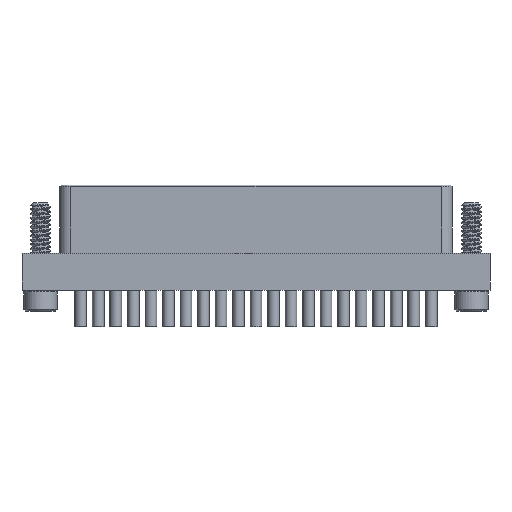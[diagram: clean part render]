
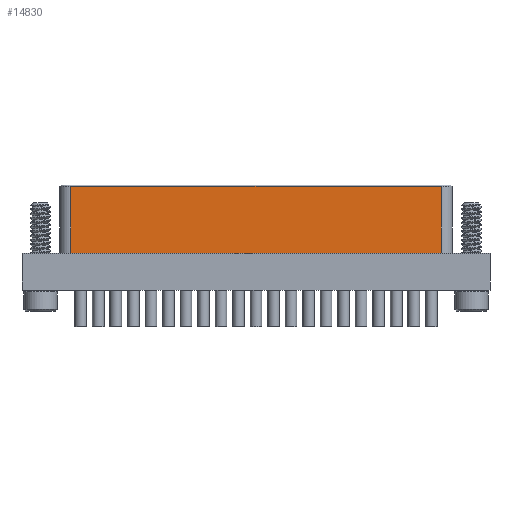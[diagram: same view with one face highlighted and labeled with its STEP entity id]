
A CAD part, front view. The second image highlights one B-rep face of the part: STEP entity #14830.
In plain terms, the highlighted planar face has unit normal (0, -1, 0).
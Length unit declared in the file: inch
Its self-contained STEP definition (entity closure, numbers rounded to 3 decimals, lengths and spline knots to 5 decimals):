
#430 = AXIS2_PLACEMENT_3D ( 'NONE', #25194, #18597, #3264 ) ;
#1190 = CARTESIAN_POINT ( 'NONE',  ( 0.5285, -0.0525, -0.195 ) ) ;
#1230 = DIRECTION ( 'NONE',  ( 0., 0., 1. ) ) ;
#2978 = VECTOR ( 'NONE', #1230, 39.37008 ) ;
#3009 = CARTESIAN_POINT ( 'NONE',  ( 0.5285, -0.0525, -0.195 ) ) ;
#3264 = DIRECTION ( 'NONE',  ( 0., 0., -1. ) ) ;
#4325 = DIRECTION ( 'NONE',  ( 0., 0., 1. ) ) ;
#4721 = DIRECTION ( 'NONE',  ( 1., 0., 0. ) ) ;
#5098 = ORIENTED_EDGE ( 'NONE', *, *, #12478, .T. ) ;
#6053 = ORIENTED_EDGE ( 'NONE', *, *, #26207, .F. ) ;
#6536 = EDGE_CURVE ( 'NONE', #15629, #32129, #20448, .T. ) ;
#7270 = VERTEX_POINT ( 'NONE', #3009 ) ;
#7414 = ORIENTED_EDGE ( 'NONE', *, *, #6536, .T. ) ;
#8636 = FACE_OUTER_BOUND ( 'NONE', #36856, .T. ) ;
#12478 = EDGE_CURVE ( 'NONE', #7270, #15629, #39288, .T. ) ;
#12545 = EDGE_CURVE ( 'NONE', #40050, #7270, #23176, .T. ) ;
#12841 = ORIENTED_EDGE ( 'NONE', *, *, #12545, .T. ) ;
#12909 = CARTESIAN_POINT ( 'NONE',  ( 0.5285, -0.0525, -0.004 ) ) ;
#14645 = DIRECTION ( 'NONE',  ( -1., 0., 0. ) ) ;
#14830 = ADVANCED_FACE ( 'NONE', ( #8636 ), #33711, .T. ) ;
#15629 = VERTEX_POINT ( 'NONE', #12909 ) ;
#18081 = VECTOR ( 'NONE', #14645, 39.37008 ) ;
#18480 = VECTOR ( 'NONE', #4325, 39.37008 ) ;
#18597 = DIRECTION ( 'NONE',  ( 0., -1., 0. ) ) ;
#20448 = LINE ( 'NONE', #40067, #18081 ) ;
#23176 = LINE ( 'NONE', #1190, #25736 ) ;
#25194 = CARTESIAN_POINT ( 'NONE',  ( 0.5285, -0.0525, -0.195 ) ) ;
#25736 = VECTOR ( 'NONE', #4721, 39.37008 ) ;
#26207 = EDGE_CURVE ( 'NONE', #40050, #32129, #32690, .T. ) ;
#26631 = CARTESIAN_POINT ( 'NONE',  ( -0.5285, -0.0525, -0.004 ) ) ;
#32129 = VERTEX_POINT ( 'NONE', #26631 ) ;
#32690 = LINE ( 'NONE', #39324, #2978 ) ;
#33711 = PLANE ( 'NONE',  #430 ) ;
#34270 = CARTESIAN_POINT ( 'NONE',  ( -0.5285, -0.0525, -0.195 ) ) ;
#36856 = EDGE_LOOP ( 'NONE', ( #5098, #7414, #6053, #12841 ) ) ;
#38861 = CARTESIAN_POINT ( 'NONE',  ( 0.5285, -0.0525, -0.195 ) ) ;
#39288 = LINE ( 'NONE', #38861, #18480 ) ;
#39324 = CARTESIAN_POINT ( 'NONE',  ( -0.5285, -0.0525, -0.195 ) ) ;
#40050 = VERTEX_POINT ( 'NONE', #34270 ) ;
#40067 = CARTESIAN_POINT ( 'NONE',  ( -0.5285, -0.0525, -0.004 ) ) ;
